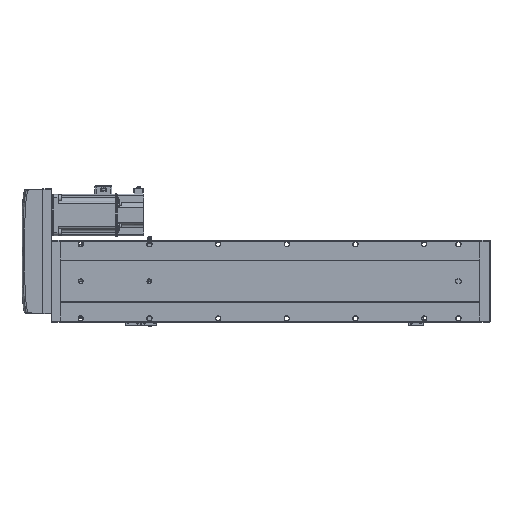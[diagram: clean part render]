
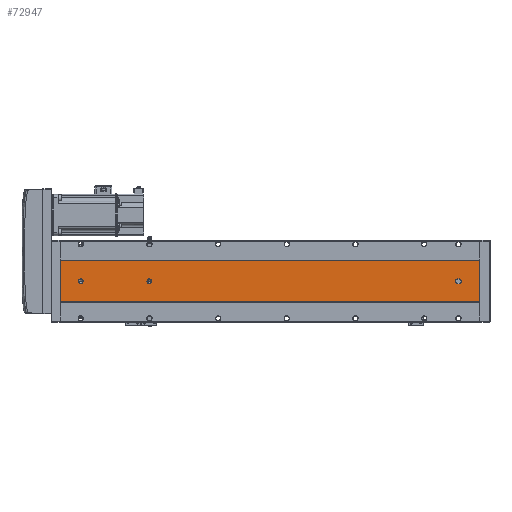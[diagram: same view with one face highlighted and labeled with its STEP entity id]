
A CAD part, front view. The second image highlights one B-rep face of the part: STEP entity #72947.
In plain terms, the highlighted planar face has unit normal (0, -1, 0).
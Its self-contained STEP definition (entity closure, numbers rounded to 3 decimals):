
#1129 = VERTEX_POINT ( 'NONE', #43575 ) ;
#2194 = ORIENTED_EDGE ( 'NONE', *, *, #11609, .T. ) ;
#2974 = CIRCLE ( 'NONE', #15680, 3.5 ) ;
#3118 = CARTESIAN_POINT ( 'NONE',  ( -9.892, -52.848, 611. ) ) ;
#3926 = DIRECTION ( 'NONE',  ( 1., 0., 0. ) ) ;
#4989 = EDGE_CURVE ( 'NONE', #82565, #64000, #28617, .T. ) ;
#5605 = CARTESIAN_POINT ( 'NONE',  ( -36.392, -52.848, 32. ) ) ;
#5699 = DIRECTION ( 'NONE',  ( 0., 0., 1. ) ) ;
#6000 = EDGE_CURVE ( 'NONE', #20753, #26388, #56260, .T. ) ;
#6604 = ORIENTED_EDGE ( 'NONE', *, *, #84541, .F. ) ;
#6698 = DIRECTION ( 'NONE',  ( 0., 1., 0. ) ) ;
#9381 = ORIENTED_EDGE ( 'NONE', *, *, #4989, .T. ) ;
#10725 = DIRECTION ( 'NONE',  ( 0., 1., 0. ) ) ;
#11609 = EDGE_CURVE ( 'NONE', #1129, #16223, #2974, .T. ) ;
#11949 = ORIENTED_EDGE ( 'NONE', *, *, #57929, .T. ) ;
#12130 = CARTESIAN_POINT ( 'NONE',  ( -43.392, -52.848, 611. ) ) ;
#13111 = CARTESIAN_POINT ( 'NONE',  ( -39.892, -52.848, 30. ) ) ;
#15143 = DIRECTION ( 'NONE',  ( 0., 0., 1. ) ) ;
#15680 = AXIS2_PLACEMENT_3D ( 'NONE', #95354, #78679, #103770 ) ;
#15834 = VECTOR ( 'NONE', #92476, 1000. ) ;
#16223 = VERTEX_POINT ( 'NONE', #55432 ) ;
#17387 = AXIS2_PLACEMENT_3D ( 'NONE', #46045, #102774, #102079 ) ;
#19771 = EDGE_LOOP ( 'NONE', ( #27145, #6604, #83649, #9381 ) ) ;
#20699 = CIRCLE ( 'NONE', #79028, 3.5 ) ;
#20753 = VERTEX_POINT ( 'NONE', #5605 ) ;
#20943 = DIRECTION ( 'NONE',  ( 0., 1., 0. ) ) ;
#22651 = LINE ( 'NONE', #12130, #88587 ) ;
#24027 = AXIS2_PLACEMENT_3D ( 'NONE', #54151, #20943, #5699 ) ;
#26152 = EDGE_CURVE ( 'NONE', #16223, #1129, #79600, .T. ) ;
#26388 = VERTEX_POINT ( 'NONE', #44527 ) ;
#26485 = EDGE_CURVE ( 'NONE', #54988, #58020, #62577, .T. ) ;
#27145 = ORIENTED_EDGE ( 'NONE', *, *, #101341, .T. ) ;
#28617 = LINE ( 'NONE', #45749, #41269 ) ;
#28628 = CIRCLE ( 'NONE', #73210, 3.5 ) ;
#28987 = AXIS2_PLACEMENT_3D ( 'NONE', #13111, #70116, #86097 ) ;
#29184 = CARTESIAN_POINT ( 'NONE',  ( -9.892, -52.848, 611. ) ) ;
#29275 = EDGE_LOOP ( 'NONE', ( #50174, #68017 ) ) ;
#30458 = CARTESIAN_POINT ( 'NONE',  ( -43.392, -52.848, 30. ) ) ;
#34774 = CARTESIAN_POINT ( 'NONE',  ( -9.892, -52.848, 0. ) ) ;
#36760 = FACE_BOUND ( 'NONE', #90633, .T. ) ;
#37576 = EDGE_LOOP ( 'NONE', ( #11949, #64319, #50499, #77176, #99716 ) ) ;
#38537 = EDGE_CURVE ( 'NONE', #90434, #20753, #48334, .T. ) ;
#38885 = CARTESIAN_POINT ( 'NONE',  ( -39.892, -52.848, 30. ) ) ;
#39148 = DIRECTION ( 'NONE',  ( 0., 1., 0. ) ) ;
#39775 = VECTOR ( 'NONE', #89823, 1000. ) ;
#41269 = VECTOR ( 'NONE', #69578, 1000. ) ;
#41783 = CARTESIAN_POINT ( 'NONE',  ( -39.892, -52.848, 477.5 ) ) ;
#42862 = DIRECTION ( 'NONE',  ( 0., 0., 1. ) ) ;
#43516 = EDGE_CURVE ( 'NONE', #82565, #79605, #55259, .T. ) ;
#43575 = CARTESIAN_POINT ( 'NONE',  ( -39.892, -52.848, 577.5 ) ) ;
#44430 = VERTEX_POINT ( 'NONE', #51803 ) ;
#44516 = CARTESIAN_POINT ( 'NONE',  ( -69.892, -52.848, 0. ) ) ;
#44527 = CARTESIAN_POINT ( 'NONE',  ( -36.392, -52.848, 30. ) ) ;
#45749 = CARTESIAN_POINT ( 'NONE',  ( -69.892, -52.848, 611. ) ) ;
#46045 = CARTESIAN_POINT ( 'NONE',  ( -39.892, -52.848, 581. ) ) ;
#46400 = CARTESIAN_POINT ( 'NONE',  ( -69.892, -52.848, 611. ) ) ;
#47962 = CARTESIAN_POINT ( 'NONE',  ( -36.392, -52.848, 611. ) ) ;
#48334 = CIRCLE ( 'NONE', #75274, 3.5 ) ;
#48656 = LINE ( 'NONE', #44516, #15834 ) ;
#48695 = ORIENTED_EDGE ( 'NONE', *, *, #26152, .T. ) ;
#48764 = EDGE_CURVE ( 'NONE', #69194, #44430, #28628, .T. ) ;
#50174 = ORIENTED_EDGE ( 'NONE', *, *, #48764, .T. ) ;
#50499 = ORIENTED_EDGE ( 'NONE', *, *, #6000, .T. ) ;
#51803 = CARTESIAN_POINT ( 'NONE',  ( -39.892, -52.848, 484.5 ) ) ;
#52788 = DIRECTION ( 'NONE',  ( 0., 0., 1. ) ) ;
#54151 = CARTESIAN_POINT ( 'NONE',  ( -39.892, -52.848, 481. ) ) ;
#54988 = VERTEX_POINT ( 'NONE', #74635 ) ;
#55259 = LINE ( 'NONE', #61228, #62891 ) ;
#55432 = CARTESIAN_POINT ( 'NONE',  ( -39.892, -52.848, 584.5 ) ) ;
#55511 = CARTESIAN_POINT ( 'NONE',  ( -39.892, -52.848, 481. ) ) ;
#56260 = LINE ( 'NONE', #47962, #39775 ) ;
#57929 = EDGE_CURVE ( 'NONE', #58020, #90434, #22651, .T. ) ;
#58020 = VERTEX_POINT ( 'NONE', #30458 ) ;
#61228 = CARTESIAN_POINT ( 'NONE',  ( -69.892, -52.848, 611. ) ) ;
#62126 = DIRECTION ( 'NONE',  ( 0., 0., -1. ) ) ;
#62577 = CIRCLE ( 'NONE', #28987, 3.5 ) ;
#62891 = VECTOR ( 'NONE', #3926, 1000. ) ;
#63344 = DIRECTION ( 'NONE',  ( 0., 0., 1. ) ) ;
#63535 = VECTOR ( 'NONE', #62126, 1000. ) ;
#63607 = CARTESIAN_POINT ( 'NONE',  ( -69.892, -52.848, 611. ) ) ;
#63882 = CIRCLE ( 'NONE', #24027, 3.5 ) ;
#64000 = VERTEX_POINT ( 'NONE', #81824 ) ;
#64319 = ORIENTED_EDGE ( 'NONE', *, *, #38537, .T. ) ;
#65667 = VERTEX_POINT ( 'NONE', #34774 ) ;
#68017 = ORIENTED_EDGE ( 'NONE', *, *, #97706, .T. ) ;
#69194 = VERTEX_POINT ( 'NONE', #41783 ) ;
#69578 = DIRECTION ( 'NONE',  ( 0., 0., -1. ) ) ;
#70116 = DIRECTION ( 'NONE',  ( 0., 1., 0. ) ) ;
#72947 = ADVANCED_FACE ( 'NONE', ( #86272, #74858, #36760, #101472 ), #80294, .F. ) ;
#73210 = AXIS2_PLACEMENT_3D ( 'NONE', #55511, #6698, #95280 ) ;
#74635 = CARTESIAN_POINT ( 'NONE',  ( -39.892, -52.848, 26.5 ) ) ;
#74858 = FACE_BOUND ( 'NONE', #29275, .T. ) ;
#75274 = AXIS2_PLACEMENT_3D ( 'NONE', #91497, #10725, #42862 ) ;
#77176 = ORIENTED_EDGE ( 'NONE', *, *, #83627, .T. ) ;
#78679 = DIRECTION ( 'NONE',  ( 0., 1., 0. ) ) ;
#79028 = AXIS2_PLACEMENT_3D ( 'NONE', #38885, #103727, #63344 ) ;
#79600 = CIRCLE ( 'NONE', #17387, 3.5 ) ;
#79605 = VERTEX_POINT ( 'NONE', #3118 ) ;
#80294 = PLANE ( 'NONE',  #88443 ) ;
#81824 = CARTESIAN_POINT ( 'NONE',  ( -69.892, -52.848, 0. ) ) ;
#82565 = VERTEX_POINT ( 'NONE', #46400 ) ;
#83627 = EDGE_CURVE ( 'NONE', #26388, #54988, #20699, .T. ) ;
#83649 = ORIENTED_EDGE ( 'NONE', *, *, #43516, .F. ) ;
#84541 = EDGE_CURVE ( 'NONE', #79605, #65667, #95327, .T. ) ;
#86097 = DIRECTION ( 'NONE',  ( 0., 0., 1. ) ) ;
#86272 = FACE_BOUND ( 'NONE', #37576, .T. ) ;
#88443 = AXIS2_PLACEMENT_3D ( 'NONE', #63607, #39148, #15143 ) ;
#88587 = VECTOR ( 'NONE', #52788, 1000. ) ;
#89823 = DIRECTION ( 'NONE',  ( 0., 0., -1. ) ) ;
#90434 = VERTEX_POINT ( 'NONE', #90661 ) ;
#90633 = EDGE_LOOP ( 'NONE', ( #2194, #48695 ) ) ;
#90661 = CARTESIAN_POINT ( 'NONE',  ( -43.392, -52.848, 32. ) ) ;
#91497 = CARTESIAN_POINT ( 'NONE',  ( -39.892, -52.848, 32. ) ) ;
#92476 = DIRECTION ( 'NONE',  ( 1., 0., 0. ) ) ;
#95280 = DIRECTION ( 'NONE',  ( 0., 0., 1. ) ) ;
#95327 = LINE ( 'NONE', #29184, #63535 ) ;
#95354 = CARTESIAN_POINT ( 'NONE',  ( -39.892, -52.848, 581. ) ) ;
#97706 = EDGE_CURVE ( 'NONE', #44430, #69194, #63882, .T. ) ;
#99716 = ORIENTED_EDGE ( 'NONE', *, *, #26485, .T. ) ;
#101341 = EDGE_CURVE ( 'NONE', #64000, #65667, #48656, .T. ) ;
#101472 = FACE_OUTER_BOUND ( 'NONE', #19771, .T. ) ;
#102079 = DIRECTION ( 'NONE',  ( 0., 0., 1. ) ) ;
#102774 = DIRECTION ( 'NONE',  ( 0., 1., 0. ) ) ;
#103727 = DIRECTION ( 'NONE',  ( 0., 1., 0. ) ) ;
#103770 = DIRECTION ( 'NONE',  ( 0., 0., 1. ) ) ;
